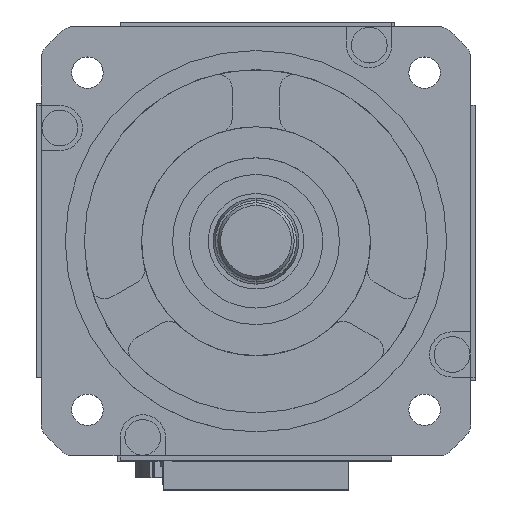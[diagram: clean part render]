
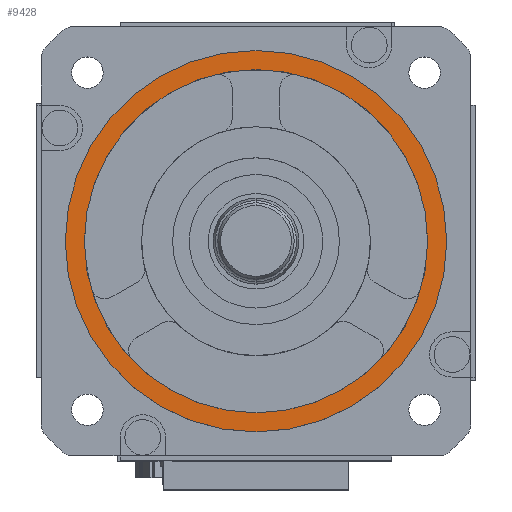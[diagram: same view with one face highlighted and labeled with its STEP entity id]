
A CAD part, top view. The second image highlights one B-rep face of the part: STEP entity #9428.
In plain terms, the highlighted planar face has unit normal (0, 0, 1).
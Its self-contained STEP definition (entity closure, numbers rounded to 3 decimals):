
#480 = CARTESIAN_POINT ( 'NONE',  ( 0., 0., 5. ) ) ;
#1225 = EDGE_CURVE ( 'NONE', #4770, #8944, #15803, .T. ) ;
#2324 = DIRECTION ( 'NONE',  ( 1., 0., 0. ) ) ;
#2464 = DIRECTION ( 'NONE',  ( 0., 0., 1. ) ) ;
#2800 = AXIS2_PLACEMENT_3D ( 'NONE', #14960, #13467, #3740 ) ;
#3280 = FACE_BOUND ( 'NONE', #9914, .T. ) ;
#3295 = PLANE ( 'NONE',  #12004 ) ;
#3515 = AXIS2_PLACEMENT_3D ( 'NONE', #480, #8493, #10300 ) ;
#3740 = DIRECTION ( 'NONE',  ( 1., 0., 0. ) ) ;
#4137 = CARTESIAN_POINT ( 'NONE',  ( 0., 0., 5. ) ) ;
#4770 = VERTEX_POINT ( 'NONE', #18800 ) ;
#5307 = DIRECTION ( 'NONE',  ( 0., 0., 1. ) ) ;
#5310 = ORIENTED_EDGE ( 'NONE', *, *, #9736, .T. ) ;
#5653 = ORIENTED_EDGE ( 'NONE', *, *, #15981, .F. ) ;
#5724 = VERTEX_POINT ( 'NONE', #20095 ) ;
#6658 = ORIENTED_EDGE ( 'NONE', *, *, #10874, .T. ) ;
#6713 = CARTESIAN_POINT ( 'NONE',  ( -40., 0., 5. ) ) ;
#7280 = CARTESIAN_POINT ( 'NONE',  ( 0., 0., 5. ) ) ;
#8493 = DIRECTION ( 'NONE',  ( 0., 0., 1. ) ) ;
#8944 = VERTEX_POINT ( 'NONE', #17942 ) ;
#9428 = ADVANCED_FACE ( 'NONE', ( #3280, #18873 ), #3295, .T. ) ;
#9654 = VERTEX_POINT ( 'NONE', #6713 ) ;
#9736 = EDGE_CURVE ( 'NONE', #9654, #5724, #11444, .T. ) ;
#9914 = EDGE_LOOP ( 'NONE', ( #18789, #5653 ) ) ;
#10300 = DIRECTION ( 'NONE',  ( 1., 0., 0. ) ) ;
#10874 = EDGE_CURVE ( 'NONE', #5724, #9654, #20551, .T. ) ;
#11444 = CIRCLE ( 'NONE', #12949, 40. ) ;
#12004 = AXIS2_PLACEMENT_3D ( 'NONE', #14384, #5307, #19601 ) ;
#12949 = AXIS2_PLACEMENT_3D ( 'NONE', #7280, #2464, #2324 ) ;
#13467 = DIRECTION ( 'NONE',  ( 0., 0., 1. ) ) ;
#13579 = DIRECTION ( 'NONE',  ( 1., 0., 0. ) ) ;
#14384 = CARTESIAN_POINT ( 'NONE',  ( 0., 0., 5. ) ) ;
#14960 = CARTESIAN_POINT ( 'NONE',  ( 0., 0., 5. ) ) ;
#15101 = EDGE_LOOP ( 'NONE', ( #5310, #6658 ) ) ;
#15803 = CIRCLE ( 'NONE', #2800, 36. ) ;
#15981 = EDGE_CURVE ( 'NONE', #8944, #4770, #20155, .T. ) ;
#16751 = DIRECTION ( 'NONE',  ( 0., 0., 1. ) ) ;
#17152 = AXIS2_PLACEMENT_3D ( 'NONE', #4137, #16751, #13579 ) ;
#17942 = CARTESIAN_POINT ( 'NONE',  ( -36., 0., 5. ) ) ;
#18789 = ORIENTED_EDGE ( 'NONE', *, *, #1225, .F. ) ;
#18800 = CARTESIAN_POINT ( 'NONE',  ( 36., 0., 5. ) ) ;
#18873 = FACE_OUTER_BOUND ( 'NONE', #15101, .T. ) ;
#19601 = DIRECTION ( 'NONE',  ( 1., 0., 0. ) ) ;
#20095 = CARTESIAN_POINT ( 'NONE',  ( 40., 0., 5. ) ) ;
#20155 = CIRCLE ( 'NONE', #17152, 36. ) ;
#20551 = CIRCLE ( 'NONE', #3515, 40. ) ;
